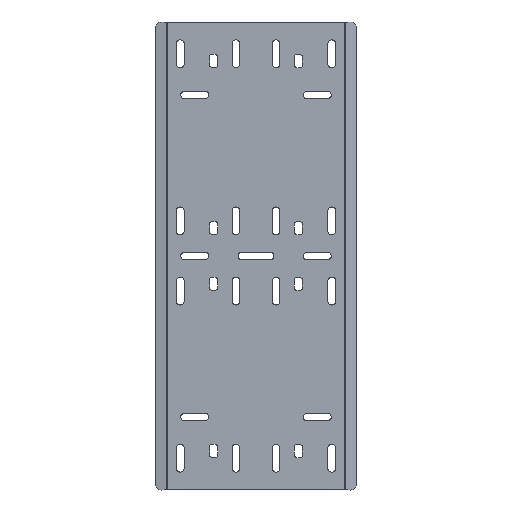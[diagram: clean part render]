
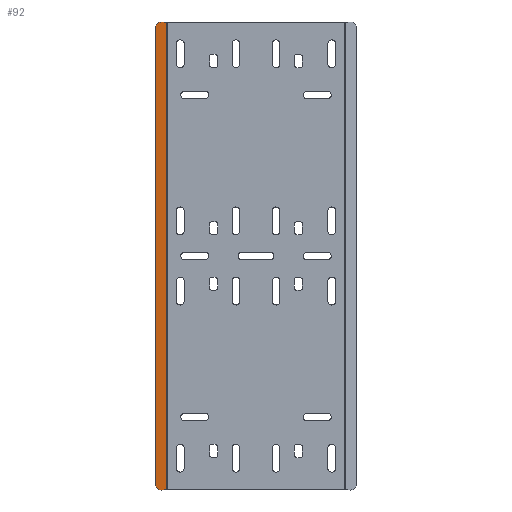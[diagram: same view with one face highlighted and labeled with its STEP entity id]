
A CAD part, top view. The second image highlights one B-rep face of the part: STEP entity #92.
In plain terms, the highlighted planar face has unit normal (-0.15, 0, 0.989).
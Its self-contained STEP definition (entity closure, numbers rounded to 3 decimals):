
#34=AXIS2_PLACEMENT_3D('Plane Axis2P3D',#31,#32,#33) ;
#31=CARTESIAN_POINT('Axis2P3D Location',(-80.113,0.,2.983)) ;
#36=CARTESIAN_POINT('Line Origine',(-85.113,210.,2.225)) ;
#40=CARTESIAN_POINT('Vertex',(-80.225,210.,2.966)) ;
#42=CARTESIAN_POINT('Vertex',(-85.057,210.,2.233)) ;
#46=CARTESIAN_POINT('Control Point',(-90.,205.,1.483)) ;
#47=CARTESIAN_POINT('Control Point',(-90.,206.571,1.483)) ;
#48=CARTESIAN_POINT('Control Point',(-89.392,208.143,1.575)) ;
#49=CARTESIAN_POINT('Control Point',(-88.164,209.385,1.762)) ;
#50=CARTESIAN_POINT('Control Point',(-86.61,210.,1.997)) ;
#51=CARTESIAN_POINT('Control Point',(-85.057,210.,2.233)) ;
#52=CARTESIAN_POINT('Vertex',(-90.,205.,1.483)) ;
#55=CARTESIAN_POINT('Line Origine',(-90.,0.,1.483)) ;
#59=CARTESIAN_POINT('Vertex',(-90.,-205.,1.483)) ;
#63=CARTESIAN_POINT('Control Point',(-85.057,-210.,2.233)) ;
#64=CARTESIAN_POINT('Control Point',(-86.61,-210.,1.997)) ;
#65=CARTESIAN_POINT('Control Point',(-88.164,-209.385,1.762)) ;
#66=CARTESIAN_POINT('Control Point',(-89.392,-208.143,1.575)) ;
#67=CARTESIAN_POINT('Control Point',(-90.,-206.571,1.483)) ;
#68=CARTESIAN_POINT('Control Point',(-90.,-205.,1.483)) ;
#69=CARTESIAN_POINT('Vertex',(-85.057,-210.,2.233)) ;
#72=CARTESIAN_POINT('Line Origine',(-85.113,-210.,2.225)) ;
#76=CARTESIAN_POINT('Vertex',(-80.225,-210.,2.966)) ;
#79=CARTESIAN_POINT('Line Origine',(-80.225,0.,2.966)) ;
#32=DIRECTION('Axis2P3D Direction',(0.15,0.,-0.989)) ;
#33=DIRECTION('Axis2P3D XDirection',(-0.989,0.,-0.15)) ;
#37=DIRECTION('Vector Direction',(-0.989,0.,-0.15)) ;
#56=DIRECTION('Vector Direction',(0.,1.,0.)) ;
#73=DIRECTION('Vector Direction',(-0.989,0.,-0.15)) ;
#80=DIRECTION('Vector Direction',(0.,1.,0.)) ;
#38=VECTOR('Line Direction',#37,1.) ;
#57=VECTOR('Line Direction',#56,1.) ;
#74=VECTOR('Line Direction',#73,1.) ;
#81=VECTOR('Line Direction',#80,1.) ;
#85=ORIENTED_EDGE('',*,*,#44,.T.) ;
#86=ORIENTED_EDGE('',*,*,#54,.F.) ;
#87=ORIENTED_EDGE('',*,*,#61,.F.) ;
#88=ORIENTED_EDGE('',*,*,#71,.F.) ;
#89=ORIENTED_EDGE('',*,*,#78,.F.) ;
#90=ORIENTED_EDGE('',*,*,#83,.T.) ;
#92=ADVANCED_FACE('D008798',(#91),#35,.F.) ;
#45=B_SPLINE_CURVE_WITH_KNOTS('',5,(#46,#47,#48,#49,#50,#51),.UNSPECIFIED.,.F.,.U.,(6,6),(0.,7.854),.UNSPECIFIED.) ;
#62=B_SPLINE_CURVE_WITH_KNOTS('',5,(#63,#64,#65,#66,#67,#68),.UNSPECIFIED.,.F.,.U.,(6,6),(23.562,31.416),.UNSPECIFIED.) ;
#44=EDGE_CURVE('',#41,#43,#39,.T.) ;
#54=EDGE_CURVE('',#53,#43,#45,.T.) ;
#61=EDGE_CURVE('',#60,#53,#58,.T.) ;
#71=EDGE_CURVE('',#70,#60,#62,.T.) ;
#78=EDGE_CURVE('',#77,#70,#75,.T.) ;
#83=EDGE_CURVE('',#77,#41,#82,.T.) ;
#84=EDGE_LOOP('',(#85,#86,#87,#88,#89,#90)) ;
#91=FACE_OUTER_BOUND('',#84,.T.) ;
#39=LINE('Line',#36,#38) ;
#58=LINE('Line',#55,#57) ;
#75=LINE('Line',#72,#74) ;
#82=LINE('Line',#79,#81) ;
#35=PLANE('',#34) ;
#41=VERTEX_POINT('',#40) ;
#43=VERTEX_POINT('',#42) ;
#53=VERTEX_POINT('',#52) ;
#60=VERTEX_POINT('',#59) ;
#70=VERTEX_POINT('',#69) ;
#77=VERTEX_POINT('',#76) ;
